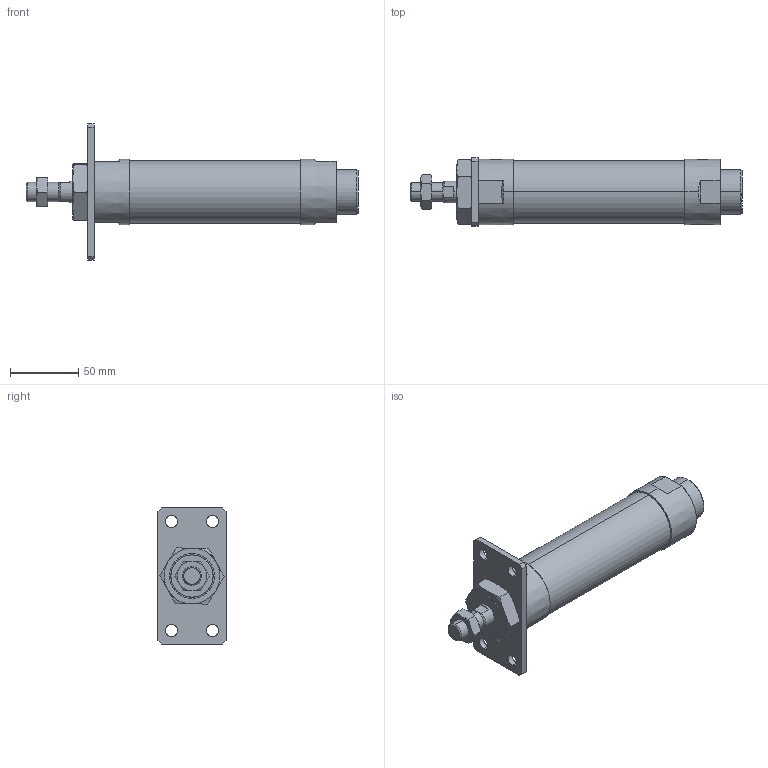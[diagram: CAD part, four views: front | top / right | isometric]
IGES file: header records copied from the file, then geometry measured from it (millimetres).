
Start section: SolidWorks IGES file using analytic representation for surfaces
Global section: file name: C:\Users\Toshiba\Desktop\J#2-40-75-A.IGS; native system: SolidWorks 2014; preprocessor: SolidWorks 2014; author: Toshiba; date: 160308.155509; units: millimetre
Bounding box: 244 x 50 x 100 mm (x, y, z)
Surface area: 51329.2 mm2 (no closed solid volume)
Topology: 0 solids, 0 shells, 114 faces, 2318 edges, 2314 vertices
Faces by surface type: bspline 67, revolution 47
